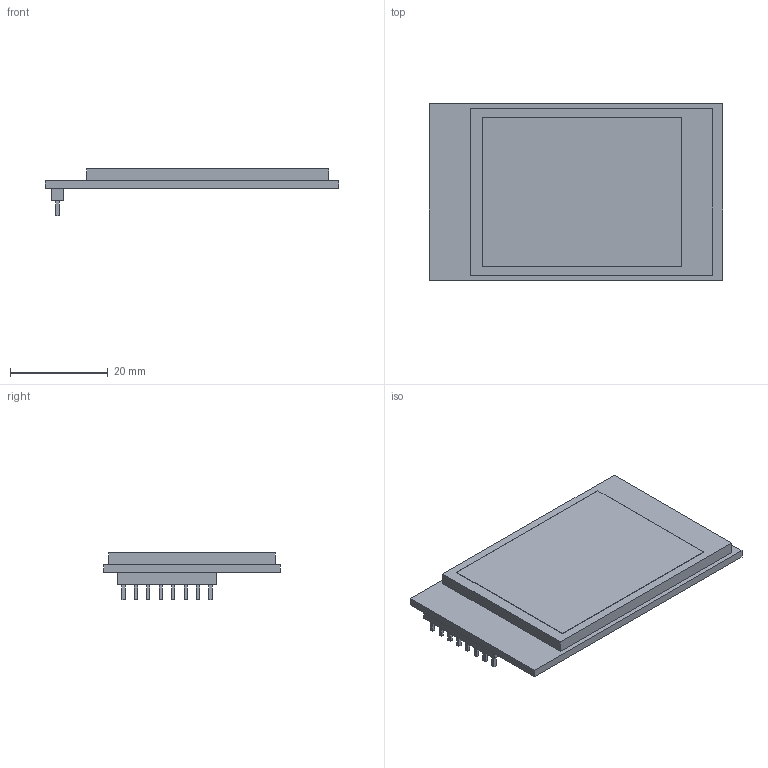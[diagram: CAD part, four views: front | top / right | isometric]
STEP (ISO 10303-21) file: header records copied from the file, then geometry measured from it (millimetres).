
FILE_DESCRIPTION(('tredder 3D model'),'2;1');
FILE_NAME('lcd_2in0_st7789_module.step','2026-01-01T00:00:00',(''),(''),'tredder step_writer','tredder','');
FILE_SCHEMA(('AUTOMOTIVE_DESIGN { 1 0 10303 214 1 1 1 1 }'));
Length unit declared in the file: millimetre
Products named in the file (1): lcd_2in0_st7789_module
Bounding box: 60 x 36 x 9.64 mm (x, y, z)
Volume: 7758.9 mm3; surface area: 11190.8 mm2
Topology: 12 solids, 12 shells, 72 faces, 144 edges, 96 vertices
Faces by surface type: plane 72
Entity records: 1912 total; most frequent: CARTESIAN_POINT 313, DIRECTION 290, ORIENTED_EDGE 288, VECTOR 144, LINE 144, EDGE_CURVE 144, VERTEX_POINT 96, AXIS2_PLACEMENT_3D 73
